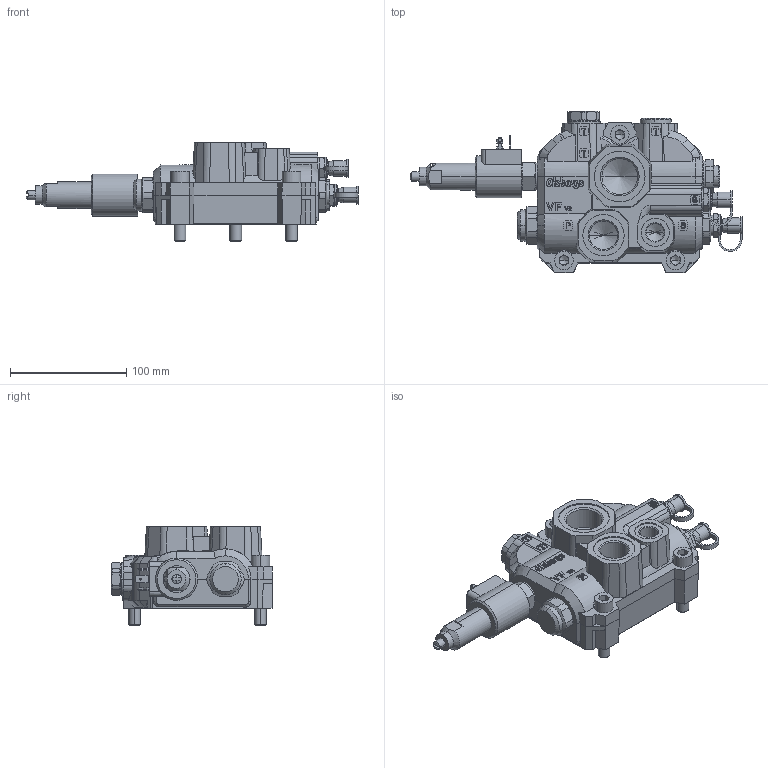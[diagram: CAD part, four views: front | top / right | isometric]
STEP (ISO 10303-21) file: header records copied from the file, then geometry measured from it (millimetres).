
FILE_DESCRIPTION (( 'STEP AP203' ), '1' );
FILE_NAME ('S-V3781.STEP', '2018-05-21T09:21:00', ( '' ), ( '' ), 'SwSTEP 2.0', 'SolidWorks 2018', '' );
FILE_SCHEMA (( 'CONFIG_CONTROL_DESIGN' ));
Length unit declared in the file: millimetre
Products named in the file (1): S-V3781
Bounding box: 285.44 x 138.44 x 84.6 mm (x, y, z)
Volume: 987539.7 mm3; surface area: 127668.4 mm2
Topology: 13 solids, 15 shells, 1270 faces, 3176 edges, 2004 vertices
Faces by surface type: plane 604, cylinder 297, cone 207, bspline 122, torus 36, sphere 4
Entity records: 42909 total; most frequent: CARTESIAN_POINT 13949, ORIENTED_EDGE 6308, DIRECTION 5489, EDGE_CURVE 3154, VERTEX_POINT 2004, AXIS2_PLACEMENT_3D 1899, VECTOR 1691, LINE 1691
